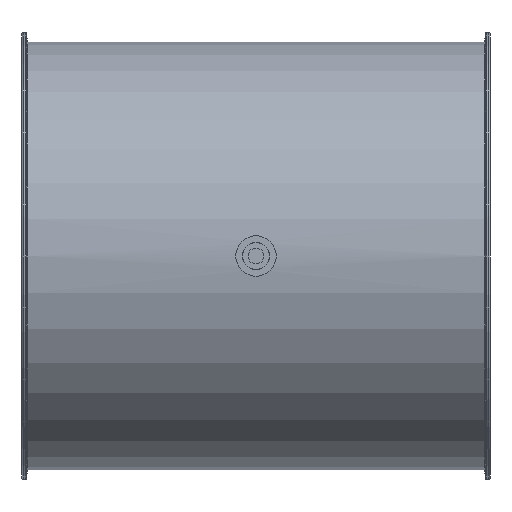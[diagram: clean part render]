
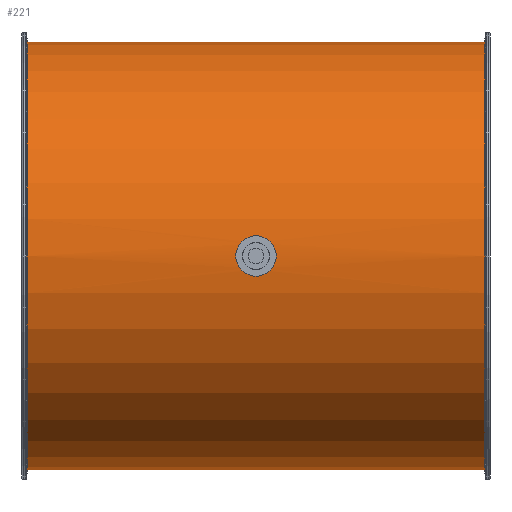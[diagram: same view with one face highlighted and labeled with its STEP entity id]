
A CAD part, front view. The second image highlights one B-rep face of the part: STEP entity #221.
In plain terms, the highlighted cylindrical face has radius 201 mm (diameter 402 mm), a full revolution.
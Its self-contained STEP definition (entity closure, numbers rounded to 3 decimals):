
#103=B_SPLINE_CURVE_WITH_KNOTS('',3,(#1813,#1814,#1815,#1816,#1817,#1818,
#1819,#1820,#1821,#1822,#1823,#1824,#1825,#1826,#1827,#1828,#1829,#1830),
 .UNSPECIFIED.,.T.,.F.,(2,2,2,2,2,2,2,2,2,2,2),(-0.125,0.,0.125,
0.25,0.375,0.5,0.625,
0.75,0.875,1.,1.125),.UNSPECIFIED.);
#104=B_SPLINE_CURVE_WITH_KNOTS('',3,(#1832,#1833,#1834,#1835,#1836,#1837,
#1838,#1839,#1840,#1841,#1842,#1843,#1844,#1845,#1846,#1847,#1848,#1849),
 .UNSPECIFIED.,.T.,.F.,(2,2,2,2,2,2,2,2,2,2,2),(-0.125,0.,0.125,
0.25,0.375,0.5,0.625,0.75,0.875,
1.,1.125),.UNSPECIFIED.);
#135=CYLINDRICAL_SURFACE('',#1238,201.);
#221=ADVANCED_FACE('',(#413,#414,#415,#416),#135,.T.);
#413=FACE_BOUND('',#549,.T.);
#414=FACE_BOUND('',#550,.T.);
#415=FACE_BOUND('',#551,.T.);
#416=FACE_BOUND('',#552,.T.);
#549=EDGE_LOOP('',(#775));
#550=EDGE_LOOP('',(#776));
#551=EDGE_LOOP('',(#777));
#552=EDGE_LOOP('',(#778));
#775=ORIENTED_EDGE('',*,*,#1049,.T.);
#776=ORIENTED_EDGE('',*,*,#1050,.F.);
#777=ORIENTED_EDGE('',*,*,#1051,.F.);
#778=ORIENTED_EDGE('',*,*,#1052,.T.);
#931=VERTEX_POINT('',#1812);
#932=VERTEX_POINT('',#1831);
#933=VERTEX_POINT('',#1850);
#934=VERTEX_POINT('',#1852);
#1049=EDGE_CURVE('',#931,#931,#1131,.T.);
#1050=EDGE_CURVE('',#932,#932,#103,.T.);
#1051=EDGE_CURVE('',#933,#933,#104,.T.);
#1052=EDGE_CURVE('',#934,#934,#1132,.T.);
#1131=CIRCLE('',#1236,201.);
#1132=CIRCLE('',#1237,201.);
#1236=AXIS2_PLACEMENT_3D('',#1811,#1484,#1485);
#1237=AXIS2_PLACEMENT_3D('',#1851,#1486,#1487);
#1238=AXIS2_PLACEMENT_3D('',#1853,#1488,#1489);
#1484=DIRECTION('',(-1.,0.,0.));
#1485=DIRECTION('',(0.,0.,-1.));
#1486=DIRECTION('',(1.,0.,0.));
#1487=DIRECTION('',(0.,0.,1.));
#1488=DIRECTION('',(1.,0.,0.));
#1489=DIRECTION('',(0.,0.,-1.));
#1811=CARTESIAN_POINT('',(214.83,-109.,125.));
#1812=CARTESIAN_POINT('',(214.83,-109.,-76.));
#1813=CARTESIAN_POINT('',(3.436,91.579,112.));
#1814=CARTESIAN_POINT('',(-3.436,91.579,112.));
#1815=CARTESIAN_POINT('',(-6.796,91.68,113.41));
#1816=CARTESIAN_POINT('',(-11.591,91.9,118.207));
#1817=CARTESIAN_POINT('',(-12.998,92.,121.601));
#1818=CARTESIAN_POINT('',(-13.002,92.,128.385));
#1819=CARTESIAN_POINT('',(-11.623,91.901,131.76));
#1820=CARTESIAN_POINT('',(-6.771,91.679,136.616));
#1821=CARTESIAN_POINT('',(-3.399,91.579,137.999));
#1822=CARTESIAN_POINT('',(3.389,91.579,138.001));
#1823=CARTESIAN_POINT('',(6.784,91.68,136.596));
#1824=CARTESIAN_POINT('',(11.583,91.899,131.807));
#1825=CARTESIAN_POINT('',(12.997,92.,128.444));
#1826=CARTESIAN_POINT('',(13.003,92.,121.581));
#1827=CARTESIAN_POINT('',(11.597,91.9,118.216));
#1828=CARTESIAN_POINT('',(6.802,91.68,113.414));
#1829=CARTESIAN_POINT('',(3.436,91.579,112.));
#1830=CARTESIAN_POINT('',(-3.436,91.579,112.));
#1831=CARTESIAN_POINT('',(0.,91.579,112.));
#1832=CARTESIAN_POINT('',(-3.436,-309.579,112.));
#1833=CARTESIAN_POINT('',(3.436,-309.579,112.));
#1834=CARTESIAN_POINT('',(6.796,-309.68,113.41));
#1835=CARTESIAN_POINT('',(11.591,-309.9,118.207));
#1836=CARTESIAN_POINT('',(12.998,-310.,121.601));
#1837=CARTESIAN_POINT('',(13.002,-310.,128.385));
#1838=CARTESIAN_POINT('',(11.623,-309.901,131.76));
#1839=CARTESIAN_POINT('',(6.771,-309.679,136.616));
#1840=CARTESIAN_POINT('',(3.399,-309.579,137.999));
#1841=CARTESIAN_POINT('',(-3.389,-309.579,138.001));
#1842=CARTESIAN_POINT('',(-6.784,-309.68,136.596));
#1843=CARTESIAN_POINT('',(-11.583,-309.899,131.807));
#1844=CARTESIAN_POINT('',(-12.997,-310.,128.444));
#1845=CARTESIAN_POINT('',(-13.003,-310.,121.581));
#1846=CARTESIAN_POINT('',(-11.597,-309.9,118.216));
#1847=CARTESIAN_POINT('',(-6.802,-309.68,113.414));
#1848=CARTESIAN_POINT('',(-3.436,-309.579,112.));
#1849=CARTESIAN_POINT('',(3.436,-309.579,112.));
#1850=CARTESIAN_POINT('',(0.,-309.579,112.));
#1851=CARTESIAN_POINT('',(-214.83,-109.,125.));
#1852=CARTESIAN_POINT('',(-214.83,-109.,326.));
#1853=CARTESIAN_POINT('',(-220.,-109.,125.));
